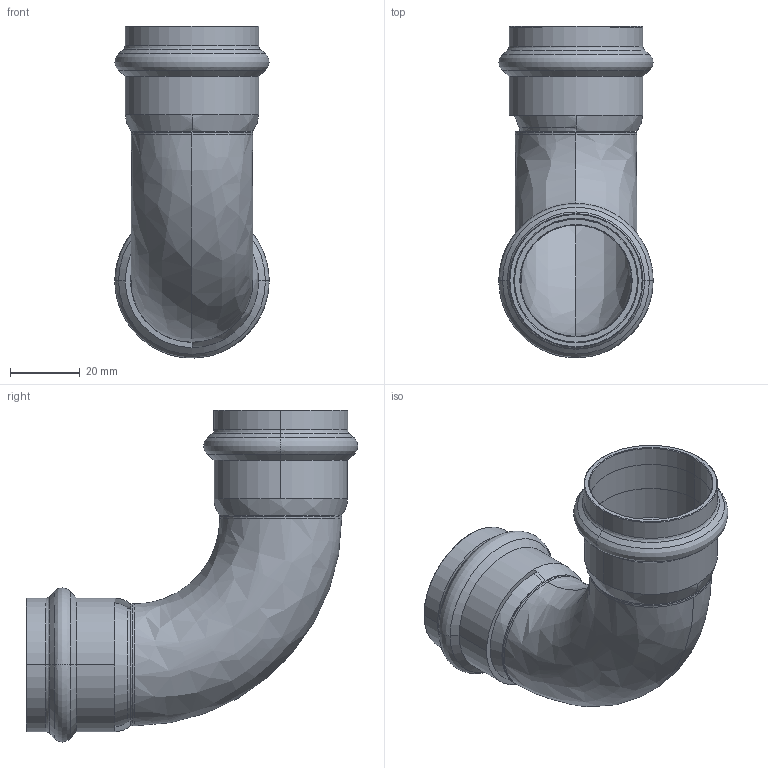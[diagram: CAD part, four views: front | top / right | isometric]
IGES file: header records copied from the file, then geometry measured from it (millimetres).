
Start section: Elysium IGES Interface
Global section: file name: C:\3d modellen sudo\C-Pr VP\SP8002V\8002VW35.igs; native system: CoCreate Modeling 17.00A  17-Jun-2010; preprocessor: CoCreate IGES_3D V2.2; author: Unknown; organization: Unknown; date: 20130129.134604; units: millimetre
Bounding box: 44.3 x 95.24 x 95.33 mm (x, y, z)
Volume: 18895.4 mm3; surface area: 31067.6 mm2
Topology: 1 solids, 1 shells, 91 faces, 201 edges, 117 vertices
Faces by surface type: bspline 91
